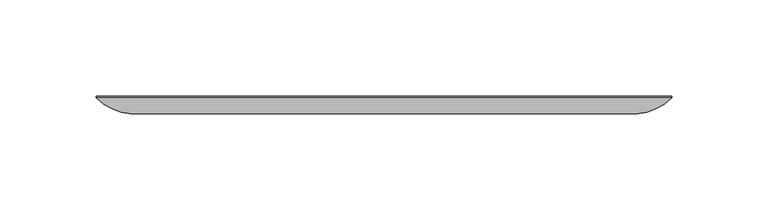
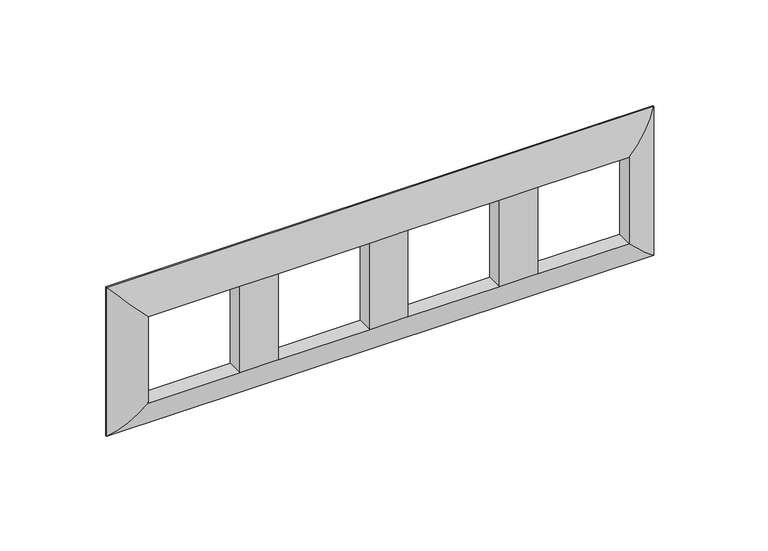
"""IFC4 building model written with IfcOpenShell, lengths in millimetres: proxy geometry, КНС_РамкаНа2x4Модуля(четырехместная)_DKC : 2х4 модулей."""

from ifc_helpers import new_model, si_unit, frame, origin, place, context, project, spatial, ellipse_curve, source, transform, mapped, element, save
from ifc_brep_helpers import plane_surface, cylinder_surface, advanced_brep


def electrical_fixtures_96c6bdfd(model_context):
    return source(origin(), model_context, "Body", "AdvancedBrep", [
        advanced_brep(
        [(131.5, -9.0, 24.9768143), (131.5, 0.0, 24.9768143), (131.5, 0.0, -24.9768143), (131.5, -9.0, -24.9768143), (149.5, -0.8, -42.9768143), (149.5, -0.8, 42.9768143), (149.5, 0.0, -42.9768143), (149.5, 0.0, 42.9768143), (81.5, 0.0, -24.9768143), (81.5, -9.0, -24.9768143), (-131.5, 0.0, -24.9768143), (-131.5, -9.0, -24.9768143), (-81.5, -9.0, -24.9768143), (-81.5, 0.0, -24.9768143), (60.5, 0.0, -24.9768143), (10.5, 0.0, -24.9768143), (10.5, -9.0, -24.9768143), (60.5, -9.0, -24.9768143), (-10.5, 0.0, -24.9768143), (-60.5, 0.0, -24.9768143), (-60.5, -9.0, -24.9768143), (-10.5, -9.0, -24.9768143), (-149.5, -0.8, -42.9768143), (-149.5, 0.0, -42.9768143), (-131.5, 0.0, 24.9768143), (-131.5, -9.0, 24.9768143), (-149.5, -0.8, 42.9768143), (-149.5, 0.0, 42.9768143), (81.5, -9.0, 24.9768143), (81.5, 0.0, 24.9768143), (-81.5, 0.0, 24.9768143), (-81.5, -9.0, 24.9768143), (10.5, 0.0, 24.9768143), (60.5, 0.0, 24.9768143), (60.5, -9.0, 24.9768143), (10.5, -9.0, 24.9768143), (-60.5, 0.0, 24.9768143), (-10.5, 0.0, 24.9768143), (-10.5, -9.0, 24.9768143), (-60.5, -9.0, 24.9768143)],
        [
            (0, 1),
            (1, 2),
            (2, 3),
            (3, 0),
            (3, 4, ellipse_curve(frame((129.7227605, 18.757355, -23.1995748), z_axis=(0.7071067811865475, 0.0, 0.7071067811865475), x_axis=(-0.7071067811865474, 0.0, 0.7071067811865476)), 39.3352091, 27.8141931)),
            (4, 5),
            (5, 0, ellipse_curve(frame((129.7227605, 18.757355, 23.1995748), z_axis=(0.7071067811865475, 0.0, -0.7071067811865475), x_axis=(0.7071067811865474, 0.0, 0.7071067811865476)), 39.3352091, 27.8141931)),
            (4, 6),
            (6, 7),
            (7, 5),
            (2, 8),
            (8, 9),
            (9, 3),
            (10, 11),
            (11, 12),
            (12, 13),
            (13, 10),
            (14, 15),
            (15, 16),
            (16, 17),
            (17, 14),
            (18, 19),
            (19, 20),
            (20, 21),
            (21, 18),
            (9, 17),
            (16, 21),
            (20, 12),
            (11, 22, ellipse_curve(frame((-129.7227605, 18.757355, -23.1995748), z_axis=(0.7071067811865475, 0.0, -0.7071067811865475), x_axis=(0.7071067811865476, 0.0, 0.7071067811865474)), 39.3352091, 27.8141931)),
            (22, 4),
            (22, 23),
            (23, 6),
            (10, 24),
            (24, 25),
            (25, 11),
            (25, 26, ellipse_curve(frame((-129.7227605, 18.757355, 23.1995748), z_axis=(-0.7071067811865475, 0.0, -0.7071067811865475), x_axis=(0.7071067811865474, 0.0, -0.7071067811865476)), 39.3352091, 27.8141931)),
            (26, 22),
            (26, 27),
            (27, 23),
            (0, 28),
            (28, 29),
            (29, 1),
            (24, 30),
            (30, 31),
            (31, 25),
            (32, 33),
            (33, 34),
            (34, 35),
            (35, 32),
            (36, 37),
            (37, 38),
            (38, 39),
            (39, 36),
            (5, 26),
            (31, 39),
            (38, 35),
            (34, 28),
            (7, 27),
            (29, 8),
            (13, 30),
            (32, 15),
            (14, 33),
            (36, 19),
            (18, 37),
            (38, 21),
            (16, 35),
            (34, 17),
            (9, 28),
            (31, 12),
            (20, 39),
        ],
        [
            plane_surface(frame((131.5, 0.0, 24.9768143), z_axis=(-1.0, 0.0, 0.0), x_axis=(0.0, 0.0, -1.0))),
            cylinder_surface(frame((129.7227605, 18.757355, 42.9768143), z_axis=(0.0, 0.0, 1.0), x_axis=(1.0, 0.0, 0.0)), 27.8141931),
            plane_surface(frame((149.5, -0.8, 42.9768143), z_axis=(1.0, 0.0, 0.0), x_axis=(0.0, 0.0, -1.0))),
            plane_surface(frame((131.5, 0.0, -24.9768143), z_axis=(0.0, 0.0, 1.0), x_axis=(-1.0, 0.0, 0.0))),
            cylinder_surface(frame((149.5, 18.757355, -23.1995748), z_axis=(1.0, 0.0, 0.0), x_axis=(0.0, 0.0, -1.0)), 27.8141931),
            plane_surface(frame((149.5, -0.8, -42.9768143), z_axis=(0.0, 0.0, -1.0), x_axis=(-1.0, 0.0, 0.0))),
            plane_surface(frame((-131.5, 0.0, -24.9768143), z_axis=(1.0, 0.0, 0.0), x_axis=(0.0, 0.0, 1.0))),
            cylinder_surface(frame((-129.7227605, 18.757355, -42.9768143), z_axis=(0.0, 0.0, -1.0), x_axis=(-1.0, 0.0, 0.0)), 27.8141931),
            plane_surface(frame((-149.5, -0.8, -42.9768143), z_axis=(-1.0, 0.0, 0.0), x_axis=(0.0, 0.0, 1.0))),
            plane_surface(frame((-131.5, 0.0, 24.9768143), z_axis=(0.0, 0.0, -1.0), x_axis=(1.0, 0.0, 0.0))),
            cylinder_surface(frame((-149.5, 18.757355, 23.1995748), z_axis=(-1.0, 0.0, 0.0), x_axis=(0.0, 0.0, 1.0)), 27.8141931),
            plane_surface(frame((-149.5, -0.8, 42.9768143), z_axis=(0.0, 0.0, 1.0), x_axis=(1.0, 0.0, 0.0))),
            plane_surface(frame((-149.5, 0.0, 42.9768143), z_axis=(0.0, 1.0, 0.0), x_axis=(1.0, 0.0, 0.0))),
            plane_surface(frame((-10.5, -9.0, 24.9768143), z_axis=(0.0, -1.0, 0.0), x_axis=(-1.0, 0.0, 0.0))),
            plane_surface(frame((-10.5, -9.0, 24.9768143), z_axis=(-1.0, 0.0, 0.0), x_axis=(0.0, 1.0, 0.0))),
            plane_surface(frame((10.5, -9.0, -24.9768143), z_axis=(1.0, 0.0, 0.0), x_axis=(0.0, 1.0, 0.0))),
            plane_surface(frame((60.5, -9.0, 24.9768143), z_axis=(-1.0, 0.0, 0.0), x_axis=(0.0, 1.0, 0.0))),
            plane_surface(frame((81.5, -9.0, -24.9768143), z_axis=(1.0, 0.0, 0.0), x_axis=(0.0, 1.0, 0.0))),
            plane_surface(frame((-81.5, -9.0, 24.9768143), z_axis=(-1.0, 0.0, 0.0), x_axis=(0.0, 1.0, 0.0))),
            plane_surface(frame((-60.5, -9.0, -24.9768143), z_axis=(1.0, 0.0, 0.0), x_axis=(0.0, 1.0, 0.0))),
        ],
        [
            (0, [[1, 2, 3, 4]]),
            (1, [[-4, 5, 6, 7]]),
            (2, [[-6, 8, 9, 10]]),
            (3, [[-3, 11, 12, 13]]),
            (3, [[14, 15, 16, 17]]),
            (3, [[18, 19, 20, 21]]),
            (3, [[22, 23, 24, 25]]),
            (4, [[-5, -13, 26, -20, 27, -24, 28, -15, 29, 30]]),
            (5, [[-8, -30, 31, 32]]),
            (6, [[-14, 33, 34, 35]]),
            (7, [[-29, -35, 36, 37]]),
            (8, [[-31, -37, 38, 39]]),
            (9, [[-1, 40, 41, 42]]),
            (9, [[-34, 43, 44, 45]]),
            (9, [[46, 47, 48, 49]]),
            (9, [[50, 51, 52, 53]]),
            (10, [[-7, 54, -36, -45, 55, -52, 56, -48, 57, -40]]),
            (11, [[-10, 58, -38, -54]]),
            (12, [[-9, -32, -39, -58], [-2, -42, 59, -11], [-17, 60, -43, -33], [-46, 61, -18, 62], [-50, 63, -22, 64]]),
            (13, [[65, -27, 66, -56]]),
            (13, [[67, -26, 68, -57]]),
            (13, [[69, -28, 70, -55]]),
            (14, [[-65, -51, -64, -25]]),
            (15, [[-66, -19, -61, -49]]),
            (16, [[-67, -47, -62, -21]]),
            (17, [[-68, -12, -59, -41]]),
            (18, [[-69, -44, -60, -16]]),
            (19, [[-70, -23, -63, -53]]),
        ],
    ),
    ])


if __name__ == "__main__":
    model = new_model("IFC4")
    model_context = context("Model", 3, world=origin())
    ifc_project = project(units=[si_unit("LENGTHUNIT", "METRE", prefix="MILLI")], contexts=[model_context])
    site = spatial("IfcSite", under=ifc_project)
    building = spatial("IfcBuilding", under=site)
    placement = place(None, origin())
    electrical_fixtures_shape = electrical_fixtures_96c6bdfd(model_context)
    element("IfcBuildingElementProxy", 1, Name="КНС_РамкаНа2x4Модуля(четырехместная)_DKC : 2х4 модулей", ObjectType="КНС_РамкаНа2x4Модуля(четырехместная)_DKC : 2х4 модулей", at=placement, inside=building, context=model_context, shape_type="MappedRepresentation", body=[
        mapped(electrical_fixtures_shape, transform((0.0, 0.0, 0.0), x_axis=(1.0, 0.0, 0.0), y_axis=(0.0, 1.0, 0.0), z_axis=(0.0, 0.0, 1.0))),
    ])
    save(model, "model.ifc")
